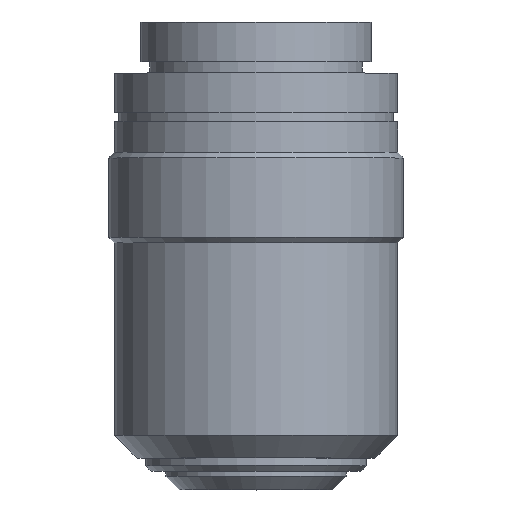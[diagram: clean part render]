
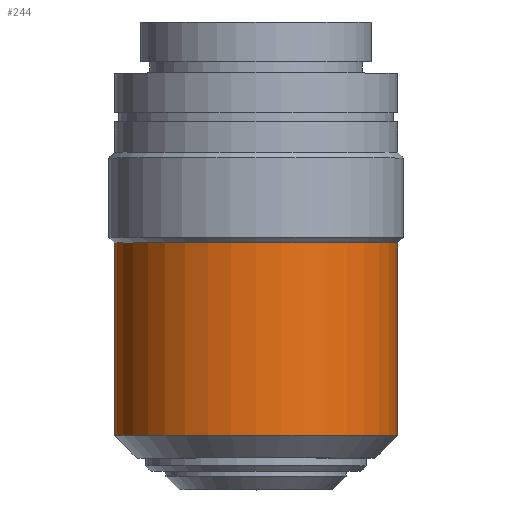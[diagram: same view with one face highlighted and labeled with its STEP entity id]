
A CAD part, top view. The second image highlights one B-rep face of the part: STEP entity #244.
In plain terms, the highlighted cylindrical face has radius 12.5 mm (diameter 25 mm), a full revolution.
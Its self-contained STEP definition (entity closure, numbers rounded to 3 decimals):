
#210=CARTESIAN_POINT('',(-12.5,-36.5,0.0));
#211=VERTEX_POINT('',#210);
#212=CARTESIAN_POINT('',(0.,-36.5,0.0));
#213=DIRECTION('',(0.0,1.0,0.0));
#214=DIRECTION('',(-1.0,0.0,0.0));
#215=AXIS2_PLACEMENT_3D('',#212,#213,#214);
#216=CIRCLE('',#215,12.5);
#217=EDGE_CURVE('',#211,#211,#216,.T.);
#225=CARTESIAN_POINT('',(0.,-28.0,0.0));
#226=DIRECTION('',(0.,1.0,0.0));
#227=DIRECTION('',(-1.0,0.0,0.0));
#228=AXIS2_PLACEMENT_3D('',#225,#226,#227);
#229=CYLINDRICAL_SURFACE('',#228,12.5);
#230=CARTESIAN_POINT('',(-12.5,-19.5,0.0));
#231=VERTEX_POINT('',#230);
#232=CARTESIAN_POINT('',(0.,-19.5,0.0));
#233=DIRECTION('',(0.0,1.0,0.0));
#234=DIRECTION('',(-1.0,0.0,0.0));
#235=AXIS2_PLACEMENT_3D('',#232,#233,#234);
#236=CIRCLE('',#235,12.5);
#237=EDGE_CURVE('',#231,#231,#236,.T.);
#238=ORIENTED_EDGE('',*,*,#237,.F.);
#239=EDGE_LOOP('',(#238));
#240=FACE_OUTER_BOUND('',#239,.T.);
#241=ORIENTED_EDGE('',*,*,#217,.T.);
#242=EDGE_LOOP('',(#241));
#243=FACE_BOUND('',#242,.T.);
#244=ADVANCED_FACE('',(#240,#243),#229,.T.);
